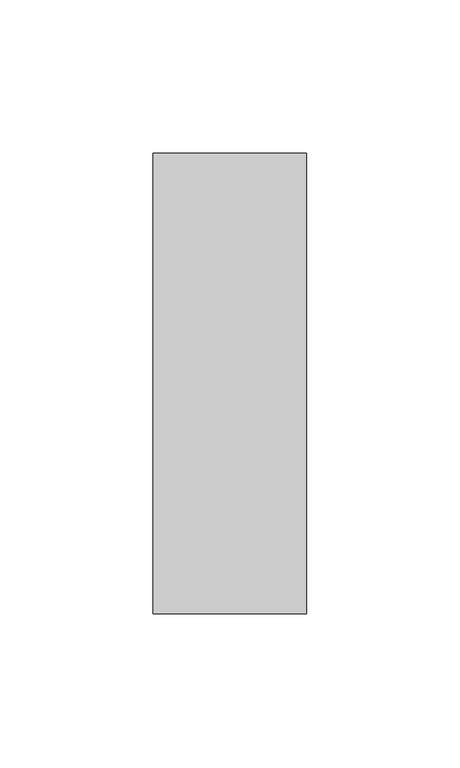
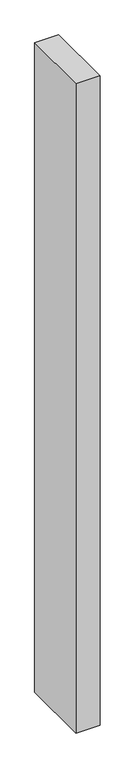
"""IFC4 building model written with IfcOpenShell, lengths in millimetres: member geometry, Прямоугольный импост : 50 x 150 мм."""

import ifcopenshell
import ifcopenshell.guid

model = None  # the IFC model being written
_history = None  # IfcOwnerHistory: only IFC2X3 demands one
_inside = {}  # id of a spatial element -> (the spatial element, [elements in it])
_under = {}  # id of a project, library or spatial element -> (it, [spatial elements below it])
_declared = {}  # id of a project -> (the project, [libraries it declares])
_typed = {}  # id of a type object -> (the type object, [elements of that type])
_made_of = {}  # id of a material, layer set ... -> (it, [elements and type objects made of it])


def new_model(schema):
    """Start an empty IFC model of exactly this schema.

    Asked for "IFC4X3", IfcOpenShell would pick the latest addendum, in which some entities
    have other attributes; the version numbers below select the first issue.
    IFC2X3 requires an IfcOwnerHistory on every rooted entity: one is made here for all.
    """
    global model, _history
    if schema == "IFC4X3":
        model = ifcopenshell.file(schema_version=(4, 3, 0, 0))
    else:
        model = ifcopenshell.file(schema=schema)
    _inside.clear()
    _under.clear()
    _declared.clear()
    _typed.clear()
    _made_of.clear()
    _history = None
    if model.schema == "IFC2X3":
        org = make("IfcOrganization", Name="unknown")
        user = make(
            "IfcPersonAndOrganization",
            ThePerson=make("IfcPerson", FamilyName="unknown"),
            TheOrganization=org,
        )
        app = make(
            "IfcApplication",
            ApplicationDeveloper=org,
            Version="unknown",
            ApplicationFullName="unknown",
            ApplicationIdentifier="unknown",
        )
        _history = make(
            "IfcOwnerHistory",
            OwningUser=user,
            OwningApplication=app,
            ChangeAction="ADDED",
            CreationDate=0,
        )
    return model


def make(cls, **values):
    """One entity of the class cls with the attributes given. An attribute that is None is left unset."""
    return model.create_entity(
        cls, **{name: value for name, value in values.items() if value is not None}
    )


def rooted(cls, **values):
    """An entity with a GlobalId (a new one), such as an element, a storey or a relation."""
    return make(cls, GlobalId=ifcopenshell.guid.new(), OwnerHistory=_history, **values)


def si_unit(unit_type, name, prefix=None):
    """IfcSIUnit, for example si_unit("LENGTHUNIT", "METRE", prefix="MILLI")."""
    return make("IfcSIUnit", UnitType=unit_type, Prefix=prefix, Name=name)


def assignment(units):
    """IfcUnitAssignment: the units of a project."""
    return None if units is None else make("IfcUnitAssignment", Units=units)


def point(xyz):
    """IfcCartesianPoint."""
    return None if xyz is None else make("IfcCartesianPoint", Coordinates=xyz)


def direction(xyz):
    """IfcDirection."""
    return None if xyz is None else make("IfcDirection", DirectionRatios=xyz)


def frame(location, z_axis=None, x_axis=None):
    """IfcAxis2Placement3D, a coordinate frame: its origin and axes. An axis left out is left unset."""
    return make(
        "IfcAxis2Placement3D",
        Location=point(location),
        Axis=direction(z_axis),
        RefDirection=direction(x_axis),
    )


def origin():
    """The frame at (0, 0, 0) with its axes left unset."""
    return frame((0.0, 0.0, 0.0))


def place(relative_to, where):
    """IfcLocalPlacement: puts the frame where relative to a parent placement (None: the world)."""
    return make(
        "IfcLocalPlacement", PlacementRelTo=relative_to, RelativePlacement=where
    )


def context(
    kind, dimensions, precision=None, world=None, true_north=None, identifier=None
):
    """IfcGeometricRepresentationContext, for example the 3D "Model" context."""
    return make(
        "IfcGeometricRepresentationContext",
        ContextIdentifier=identifier,
        ContextType=kind,
        CoordinateSpaceDimension=dimensions,
        Precision=precision,
        WorldCoordinateSystem=world,
        TrueNorth=true_north,
    )


def project(units=None, contexts=None):
    """IfcProject with its units and contexts."""
    return rooted(
        "IfcProject",
        Name="project",
        RepresentationContexts=contexts,
        UnitsInContext=assignment(units),
    )


def spatial(cls, under=None, at=None, **own):
    """A site, building, storey or space (cls), placed at a placement, below another one or the project."""
    s = rooted(cls, ObjectPlacement=at, **own)
    if under is not None:
        _under.setdefault(under.id(), (under, []))[1].append(s)
    return s


def polyline(points):
    """IfcPolyline through the points."""
    return make("IfcPolyline", Points=[point(p) for p in points])


def outline(outer, holes=None, kind="AREA"):
    """IfcArbitraryClosedProfileDef: a profile drawn as a closed curve; with holes, ...WithVoids."""
    if holes is None:
        return make("IfcArbitraryClosedProfileDef", ProfileType=kind, OuterCurve=outer)
    return make(
        "IfcArbitraryProfileDefWithVoids",
        ProfileType=kind,
        OuterCurve=outer,
        InnerCurves=holes,
    )


def extrude(swept, where, along, depth):
    """IfcExtrudedAreaSolid: the profile swept, set in the frame where, extruded along a direction by depth."""
    return make(
        "IfcExtrudedAreaSolid",
        SweptArea=swept,
        Position=where,
        ExtrudedDirection=direction(along),
        Depth=depth,
    )


def shape(context_of_items, identifier, shape_type, items):
    """IfcShapeRepresentation: the items that make up one representation, for example the "Body"."""
    return make(
        "IfcShapeRepresentation",
        ContextOfItems=context_of_items,
        RepresentationIdentifier=identifier,
        RepresentationType=shape_type,
        Items=items,
    )


def source(mapping_origin, context_of_items, identifier, shape_type, items):
    """IfcRepresentationMap: a shape defined once, which mapped items show again and again."""
    return make(
        "IfcRepresentationMap",
        MappingOrigin=mapping_origin,
        MappedRepresentation=shape(context_of_items, identifier, shape_type, items),
    )


def transform(
    local_origin,
    x_axis=None,
    y_axis=None,
    z_axis=None,
    scale=None,
    scale2=None,
    scale3=None,
    uniform=True,
):
    """IfcCartesianTransformationOperator3D, or its non-uniform kind. x_axis, y_axis, z_axis: its Axis1, 2, 3."""
    if uniform:
        return make(
            "IfcCartesianTransformationOperator3D",
            Axis1=direction(x_axis),
            Axis2=direction(y_axis),
            LocalOrigin=point(local_origin),
            Scale=scale,
            Axis3=direction(z_axis),
        )
    return make(
        "IfcCartesianTransformationOperator3DnonUniform",
        Axis1=direction(x_axis),
        Axis2=direction(y_axis),
        LocalOrigin=point(local_origin),
        Scale=scale,
        Axis3=direction(z_axis),
        Scale2=scale2,
        Scale3=scale3,
    )


def mapped(mapping_source, mapping_target):
    """IfcMappedItem: shows the shape of a source again, moved by a transform."""
    return make(
        "IfcMappedItem", MappingSource=mapping_source, MappingTarget=mapping_target
    )


def made_of(thing, what):
    """Note that an element or type object is made of a material, layer set ...; save() writes the relation."""
    if what is not None:
        _made_of.setdefault(what.id(), (what, []))[1].append(thing)
    return thing


def element(
    cls,
    number,
    at=None,
    inside=None,
    cuts=None,
    type_object=None,
    material=None,
    context=None,
    identifier="Body",
    shape_type=None,
    held_by="IfcProductDefinitionShape",
    body=None,
    shapes=None,
    **own,
):
    """One element of the class cls, such as IfcWall. Its Tag is "e" and its number.

    at: its placement. inside: the storey or other place that contains it. cuts: it is an
    opening in that element (IfcRelVoidsElement). A single representation is given by context,
    identifier, shape_type and body (its items); several are given by shapes. held_by: the class
    of the entity that holds the representations. save() writes the other relations.
    """
    e = rooted(cls, Tag="e%d" % number, ObjectPlacement=at, **own)
    if body is not None:
        shapes = [shape(context, identifier, shape_type, body)]
    if shapes is not None:
        e.Representation = make(held_by, Representations=shapes)
    if inside is not None:
        _inside.setdefault(inside.id(), (inside, []))[1].append(e)
    if cuts is not None:
        rooted(
            "IfcRelVoidsElement", RelatingBuildingElement=cuts, RelatedOpeningElement=e
        )
    if type_object is not None:
        _typed.setdefault(type_object.id(), (type_object, []))[1].append(e)
    return made_of(e, material)


def aggregate(whole, parts):
    """IfcRelAggregates: a whole, such as a stair, and the parts it consists of."""
    return rooted("IfcRelAggregates", RelatingObject=whole, RelatedObjects=parts)


def save(model, path):
    """Write the relations noted so far, then the file.

    IfcRelAggregates (storeys below a building ...), IfcRelContainedInSpatialStructure (elements
    in a storey), IfcRelDefinesByType, IfcRelAssociatesMaterial and IfcRelDeclares: one each for
    every whole, place, type object, material and project.
    """
    for whole, parts in _under.values():
        aggregate(whole, parts)
    for where, things in _inside.values():
        rooted(
            "IfcRelContainedInSpatialStructure",
            RelatedElements=things,
            RelatingStructure=where,
        )
    for kind, things in _typed.values():
        rooted("IfcRelDefinesByType", RelatedObjects=things, RelatingType=kind)
    for what, things in _made_of.values():
        rooted("IfcRelAssociatesMaterial", RelatedObjects=things, RelatingMaterial=what)
    for by, libraries in _declared.values():
        rooted("IfcRelDeclares", RelatingContext=by, RelatedDefinitions=libraries)
    model.write(path)


def member_d0682df6(model_context):
    return source(origin(), model_context, "Body", "SweptSolid", [
        extrude(outline(polyline([(25.0, 75.0), (25.0, -75.0), (-25.0, -75.0), (-25.0, 75.0), (25.0, 75.0)])), frame((0.0, 0.0, -1437.7292781), z_axis=(0.0, 0.0, 1.0), x_axis=(1.0, 0.0, 0.0)), (0.0, 0.0, 1.0), 1437.7292781),
    ])


if __name__ == "__main__":
    model = new_model("IFC4")
    model_context = context("Model", 3, world=origin())
    ifc_project = project(units=[si_unit("LENGTHUNIT", "METRE", prefix="MILLI")], contexts=[model_context])
    site = spatial("IfcSite", under=ifc_project)
    building = spatial("IfcBuilding", under=site)
    placement = place(None, origin())
    member_shape = member_d0682df6(model_context)
    element("IfcMember", 1, ObjectType="Прямоугольный импост : 50 x 150 мм", at=placement, inside=building, context=model_context, shape_type="MappedRepresentation", body=[
        mapped(member_shape, transform((0.0, 0.0, 0.0), x_axis=(1.0, 0.0, 0.0), y_axis=(0.0, 1.0, 0.0), z_axis=(0.0, 0.0, 1.0))),
    ])
    save(model, "model.ifc")
